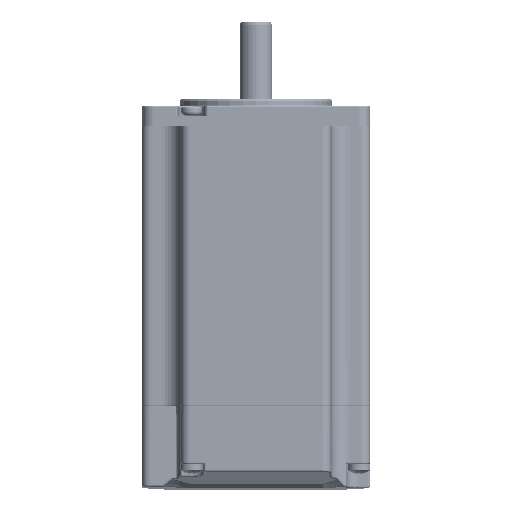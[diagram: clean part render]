
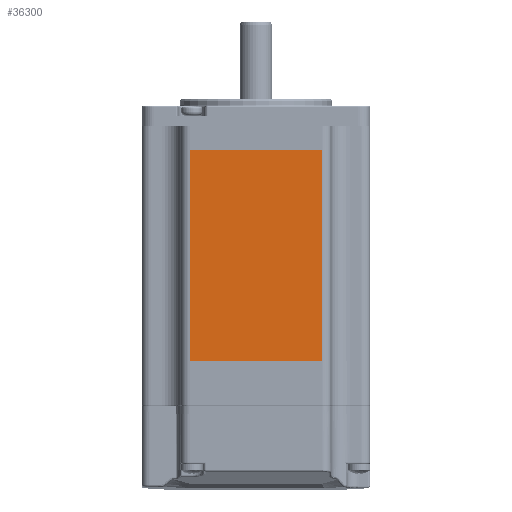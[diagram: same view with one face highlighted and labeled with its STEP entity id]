
A CAD part, front view. The second image highlights one B-rep face of the part: STEP entity #36300.
In plain terms, the highlighted planar face has unit normal (0, -1, 0).
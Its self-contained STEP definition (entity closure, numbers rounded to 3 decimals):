
#24394=DIRECTION('',(1.,0.,0.));
#24395=VECTOR('',#24394,33.);
#24396=CARTESIAN_POINT('',(-16.5,-28.6,-26.5));
#24397=LINE('',#24396,#24395);
#27154=DIRECTION('',(0.,0.,1.));
#27155=VECTOR('',#27154,53.);
#27156=CARTESIAN_POINT('',(16.5,-28.6,-26.5));
#27157=LINE('',#27156,#27155);
#27162=DIRECTION('',(1.,0.,0.));
#27163=VECTOR('',#27162,33.);
#27164=CARTESIAN_POINT('',(-16.5,-28.6,26.5));
#27165=LINE('',#27164,#27163);
#27170=DIRECTION('',(0.,0.,-1.));
#27171=VECTOR('',#27170,53.);
#27172=CARTESIAN_POINT('',(-16.5,-28.6,26.5));
#27173=LINE('',#27172,#27171);
#32579=CARTESIAN_POINT('',(-16.5,-28.6,-26.5));
#32580=VERTEX_POINT('',#32579);
#32581=CARTESIAN_POINT('',(16.5,-28.6,-26.5));
#32582=VERTEX_POINT('',#32581);
#33750=CARTESIAN_POINT('',(16.5,-28.6,26.5));
#33751=VERTEX_POINT('',#33750);
#33752=CARTESIAN_POINT('',(-16.5,-28.6,26.5));
#33753=VERTEX_POINT('',#33752);
#36287=CARTESIAN_POINT('',(-16.5,-28.6,26.5));
#36288=DIRECTION('',(0.,1.,0.));
#36289=DIRECTION('',(0.,0.,1.));
#36290=AXIS2_PLACEMENT_3D('',#36287,#36288,#36289);
#36291=PLANE('',#36290);
#36292=ORIENTED_EDGE('',*,*,#34974,.F.);
#36294=ORIENTED_EDGE('',*,*,#36293,.F.);
#36296=ORIENTED_EDGE('',*,*,#36295,.T.);
#36297=ORIENTED_EDGE('',*,*,#36279,.F.);
#36298=EDGE_LOOP('',(#36292,#36294,#36296,#36297));
#36299=FACE_OUTER_BOUND('',#36298,.F.);
#34974=EDGE_CURVE('',#32580,#32582,#24397,.T.);
#36279=EDGE_CURVE('',#32582,#33751,#27157,.T.);
#36293=EDGE_CURVE('',#33753,#32580,#27173,.T.);
#36295=EDGE_CURVE('',#33753,#33751,#27165,.T.);
#36300=ADVANCED_FACE('',(#36299),#36291,.F.);
